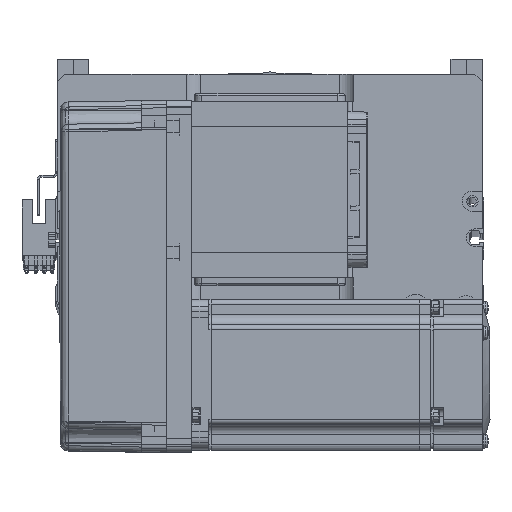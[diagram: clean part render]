
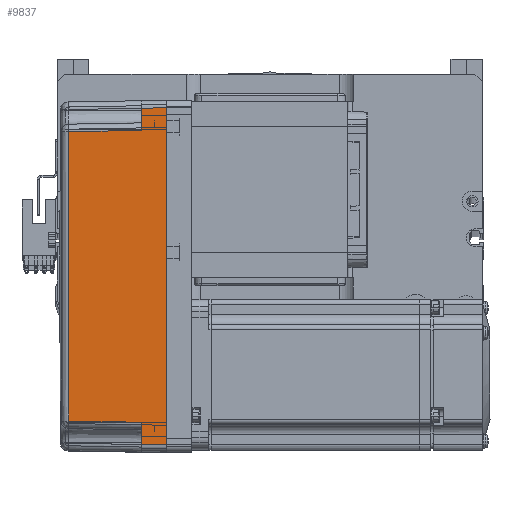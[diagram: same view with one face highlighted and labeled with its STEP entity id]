
A CAD part, top view. The second image highlights one B-rep face of the part: STEP entity #9837.
In plain terms, the highlighted planar face has unit normal (-0.018, 0, 1) as drawn and (0, -1, 0.017) by its records, which use the part's own axes.
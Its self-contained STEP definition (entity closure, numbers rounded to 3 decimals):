
#948 = VECTOR ( 'NONE', #63851, 1000. ) ;
#2299 = ORIENTED_EDGE ( 'NONE', *, *, #63587, .T. ) ;
#5599 = EDGE_LOOP ( 'NONE', ( #42307, #2299, #22500, #40374, #50937, #45142, #19258, #54836 ) ) ;
#6277 = EDGE_CURVE ( 'NONE', #38554, #62642, #57175, .T. ) ;
#7146 = VECTOR ( 'NONE', #19251, 1000. ) ;
#7242 = CARTESIAN_POINT ( 'NONE',  ( 67., -36., 0. ) ) ;
#8200 = CARTESIAN_POINT ( 'NONE',  ( -58., -35.825, 10. ) ) ;
#9047 = FACE_OUTER_BOUND ( 'NONE', #5599, .T. ) ;
#9837 = ADVANCED_FACE ( 'NONE', ( #9047 ), #61214, .T. ) ;
#9921 = VECTOR ( 'NONE', #15646, 1000. ) ;
#11831 = LINE ( 'NONE', #58382, #948 ) ;
#11922 = DIRECTION ( 'NONE',  ( 0., -0.017, -1. ) ) ;
#13790 = CARTESIAN_POINT ( 'NONE',  ( 67., -36., 0. ) ) ;
#13958 = CARTESIAN_POINT ( 'NONE',  ( 57.495, -35.32, 38.985 ) ) ;
#13979 = VECTOR ( 'NONE', #38907, 1000. ) ;
#15646 = DIRECTION ( 'NONE',  ( -1., 0., 0. ) ) ;
#16042 = EDGE_CURVE ( 'NONE', #28211, #18051, #31091, .T. ) ;
#16217 = DIRECTION ( 'NONE',  ( -1., 0., 0. ) ) ;
#18051 = VERTEX_POINT ( 'NONE', #63514 ) ;
#19036 = CARTESIAN_POINT ( 'NONE',  ( -66.959, -35.958, 2.39 ) ) ;
#19251 = DIRECTION ( 'NONE',  ( 0.017, 0.017, 1. ) ) ;
#19258 = ORIENTED_EDGE ( 'NONE', *, *, #58278, .F. ) ;
#21716 = VECTOR ( 'NONE', #41900, 1000. ) ;
#22500 = ORIENTED_EDGE ( 'NONE', *, *, #6277, .T. ) ;
#23141 = LINE ( 'NONE', #39515, #9921 ) ;
#23618 = LINE ( 'NONE', #51123, #58781 ) ;
#25310 = CARTESIAN_POINT ( 'NONE',  ( 57.495, -35.32, 38.985 ) ) ;
#25397 = EDGE_CURVE ( 'NONE', #62642, #52080, #46396, .T. ) ;
#28211 = VERTEX_POINT ( 'NONE', #7242 ) ;
#30950 = CARTESIAN_POINT ( 'NONE',  ( -57.495, -35.32, 38.985 ) ) ;
#31091 = LINE ( 'NONE', #13790, #13979 ) ;
#31521 = DIRECTION ( 'NONE',  ( 0., -1., 0.017 ) ) ;
#34251 = LINE ( 'NONE', #36918, #21716 ) ;
#35529 = EDGE_CURVE ( 'NONE', #58058, #52672, #23141, .T. ) ;
#36918 = CARTESIAN_POINT ( 'NONE',  ( 0., -36., 0. ) ) ;
#37942 = DIRECTION ( 'NONE',  ( -0.017, 0.017, 1. ) ) ;
#38554 = VERTEX_POINT ( 'NONE', #41741 ) ;
#38907 = DIRECTION ( 'NONE',  ( -0.017, 0.017, 1. ) ) ;
#39515 = CARTESIAN_POINT ( 'NONE',  ( 70., -35.825, 10. ) ) ;
#40374 = ORIENTED_EDGE ( 'NONE', *, *, #25397, .T. ) ;
#40600 = CARTESIAN_POINT ( 'NONE',  ( -19.165, -35.316, 39.181 ) ) ;
#40822 = CARTESIAN_POINT ( 'NONE',  ( 19.165, -35.316, 39.181 ) ) ;
#41741 = CARTESIAN_POINT ( 'NONE',  ( 58., -35.825, 10. ) ) ;
#41900 = DIRECTION ( 'NONE',  ( -1., 0., 0. ) ) ;
#42307 = ORIENTED_EDGE ( 'NONE', *, *, #16042, .T. ) ;
#43339 = CARTESIAN_POINT ( 'NONE',  ( -57.495, -35.32, 38.985 ) ) ;
#45142 = ORIENTED_EDGE ( 'NONE', *, *, #35529, .T. ) ;
#45378 = LINE ( 'NONE', #19036, #7146 ) ;
#46396 = B_SPLINE_CURVE_WITH_KNOTS ( 'NONE', 3,
 ( #25310, #40822, #40600, #30950 ),
 .UNSPECIFIED., .F., .F.,
 ( 4, 4 ),
 ( 0., 1. ),
 .UNSPECIFIED. ) ;
#50937 = ORIENTED_EDGE ( 'NONE', *, *, #58165, .T. ) ;
#51123 = CARTESIAN_POINT ( 'NONE',  ( 70., -35.825, 10. ) ) ;
#51353 = EDGE_CURVE ( 'NONE', #28211, #61100, #34251, .T. ) ;
#51377 = CARTESIAN_POINT ( 'NONE',  ( 70., -36., 0. ) ) ;
#52080 = VERTEX_POINT ( 'NONE', #43339 ) ;
#52672 = VERTEX_POINT ( 'NONE', #57160 ) ;
#52915 = CARTESIAN_POINT ( 'NONE',  ( -67., -36., 0. ) ) ;
#54836 = ORIENTED_EDGE ( 'NONE', *, *, #51353, .F. ) ;
#54842 = VECTOR ( 'NONE', #37942, 1000. ) ;
#57160 = CARTESIAN_POINT ( 'NONE',  ( -66.826, -35.825, 10. ) ) ;
#57175 = LINE ( 'NONE', #58246, #54842 ) ;
#58058 = VERTEX_POINT ( 'NONE', #8200 ) ;
#58165 = EDGE_CURVE ( 'NONE', #52080, #58058, #11831, .T. ) ;
#58246 = CARTESIAN_POINT ( 'NONE',  ( 58., -35.825, 10. ) ) ;
#58278 = EDGE_CURVE ( 'NONE', #61100, #52672, #45378, .T. ) ;
#58382 = CARTESIAN_POINT ( 'NONE',  ( -57.495, -35.32, 38.985 ) ) ;
#58781 = VECTOR ( 'NONE', #16217, 1000. ) ;
#58942 = AXIS2_PLACEMENT_3D ( 'NONE', #51377, #31521, #11922 ) ;
#61100 = VERTEX_POINT ( 'NONE', #52915 ) ;
#61214 = PLANE ( 'NONE',  #58942 ) ;
#62642 = VERTEX_POINT ( 'NONE', #13958 ) ;
#63514 = CARTESIAN_POINT ( 'NONE',  ( 66.826, -35.825, 10. ) ) ;
#63587 = EDGE_CURVE ( 'NONE', #18051, #38554, #23618, .T. ) ;
#63851 = DIRECTION ( 'NONE',  ( -0.017, -0.017, -1. ) ) ;
